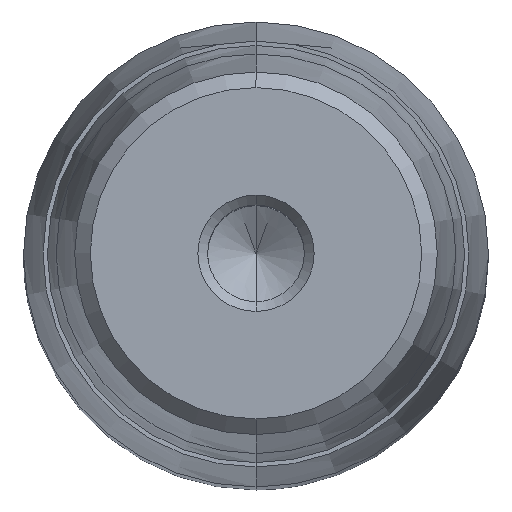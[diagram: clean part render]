
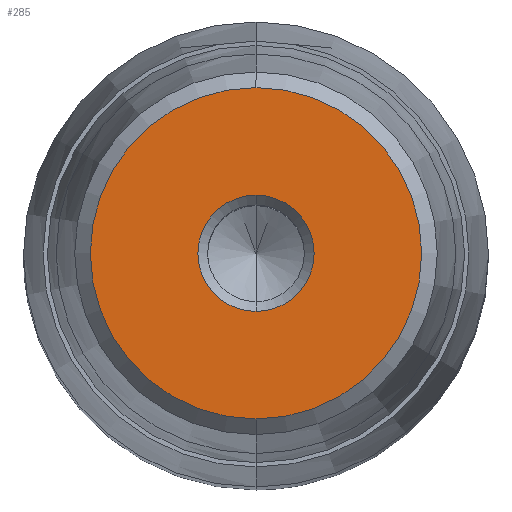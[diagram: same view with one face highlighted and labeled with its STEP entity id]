
A CAD part, top view. The second image highlights one B-rep face of the part: STEP entity #285.
In plain terms, the highlighted planar face has unit normal (0, 0, 1).
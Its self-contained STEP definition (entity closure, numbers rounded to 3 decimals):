
#164=CARTESIAN_POINT('Axis2P3D Location',(0.,0.,48.)) ;
#168=CARTESIAN_POINT('Vertex',(4.,0.,48.)) ;
#170=CARTESIAN_POINT('Vertex',(0.,-4.,48.)) ;
#173=CARTESIAN_POINT('Axis2P3D Location',(0.,0.,48.)) ;
#177=CARTESIAN_POINT('Vertex',(0.,4.,48.)) ;
#228=CARTESIAN_POINT('Axis2P3D Location',(0.,4.,48.)) ;
#233=CARTESIAN_POINT('Axis2P3D Location',(0.,0.,48.)) ;
#237=CARTESIAN_POINT('Vertex',(0.,11.4,48.)) ;
#239=CARTESIAN_POINT('Vertex',(11.4,0.,48.)) ;
#242=CARTESIAN_POINT('Axis2P3D Location',(0.,0.,48.)) ;
#246=CARTESIAN_POINT('Vertex',(-11.4,0.,48.)) ;
#249=CARTESIAN_POINT('Axis2P3D Location',(0.,0.,48.)) ;
#253=CARTESIAN_POINT('Vertex',(0.,-11.4,48.)) ;
#256=CARTESIAN_POINT('Axis2P3D Location',(0.,0.,48.)) ;
#267=CARTESIAN_POINT('Axis2P3D Location',(0.,0.,48.)) ;
#271=CARTESIAN_POINT('Vertex',(-4.,0.,48.)) ;
#274=CARTESIAN_POINT('Axis2P3D Location',(0.,0.,48.)) ;
#165=DIRECTION('Axis2P3D Direction',(0.,0.,1.)) ;
#174=DIRECTION('Axis2P3D Direction',(0.,0.,1.)) ;
#229=DIRECTION('Axis2P3D Direction',(-0.,0.,-1.)) ;
#230=DIRECTION('Axis2P3D XDirection',(0.,1.,0.)) ;
#234=DIRECTION('Axis2P3D Direction',(-0.,0.,-1.)) ;
#243=DIRECTION('Axis2P3D Direction',(-0.,0.,-1.)) ;
#250=DIRECTION('Axis2P3D Direction',(-0.,0.,-1.)) ;
#257=DIRECTION('Axis2P3D Direction',(-0.,0.,-1.)) ;
#268=DIRECTION('Axis2P3D Direction',(-0.,0.,-1.)) ;
#275=DIRECTION('Axis2P3D Direction',(-0.,0.,-1.)) ;
#166=AXIS2_PLACEMENT_3D('Circle Axis2P3D',#164,#165,$) ;
#175=AXIS2_PLACEMENT_3D('Circle Axis2P3D',#173,#174,$) ;
#231=AXIS2_PLACEMENT_3D('Plane Axis2P3D',#228,#229,#230) ;
#235=AXIS2_PLACEMENT_3D('Circle Axis2P3D',#233,#234,$) ;
#244=AXIS2_PLACEMENT_3D('Circle Axis2P3D',#242,#243,$) ;
#251=AXIS2_PLACEMENT_3D('Circle Axis2P3D',#249,#250,$) ;
#258=AXIS2_PLACEMENT_3D('Circle Axis2P3D',#256,#257,$) ;
#269=AXIS2_PLACEMENT_3D('Circle Axis2P3D',#267,#268,$) ;
#276=AXIS2_PLACEMENT_3D('Circle Axis2P3D',#274,#275,$) ;
#262=ORIENTED_EDGE('',*,*,#241,.F.) ;
#263=ORIENTED_EDGE('',*,*,#248,.F.) ;
#264=ORIENTED_EDGE('',*,*,#255,.F.) ;
#265=ORIENTED_EDGE('',*,*,#260,.F.) ;
#280=ORIENTED_EDGE('',*,*,#172,.T.) ;
#281=ORIENTED_EDGE('',*,*,#273,.T.) ;
#282=ORIENTED_EDGE('',*,*,#278,.T.) ;
#283=ORIENTED_EDGE('',*,*,#179,.T.) ;
#284=FACE_BOUND('',#279,.T.) ;
#285=ADVANCED_FACE('722-32x140x173',(#266,#284),#232,.F.) ;
#167=CIRCLE('generated circle',#166,4.) ;
#176=CIRCLE('generated circle',#175,4.) ;
#236=CIRCLE('generated circle',#235,11.4) ;
#245=CIRCLE('generated circle',#244,11.4) ;
#252=CIRCLE('generated circle',#251,11.4) ;
#259=CIRCLE('generated circle',#258,11.4) ;
#270=CIRCLE('generated circle',#269,4.) ;
#277=CIRCLE('generated circle',#276,4.) ;
#172=EDGE_CURVE('',#169,#171,#167,.F.) ;
#179=EDGE_CURVE('',#178,#169,#176,.F.) ;
#241=EDGE_CURVE('',#238,#240,#236,.T.) ;
#248=EDGE_CURVE('',#247,#238,#245,.T.) ;
#255=EDGE_CURVE('',#254,#247,#252,.T.) ;
#260=EDGE_CURVE('',#240,#254,#259,.T.) ;
#273=EDGE_CURVE('',#171,#272,#270,.T.) ;
#278=EDGE_CURVE('',#272,#178,#277,.T.) ;
#261=EDGE_LOOP('',(#262,#263,#264,#265)) ;
#279=EDGE_LOOP('',(#280,#281,#282,#283)) ;
#266=FACE_OUTER_BOUND('',#261,.T.) ;
#232=PLANE('Plane',#231) ;
#169=VERTEX_POINT('',#168) ;
#171=VERTEX_POINT('',#170) ;
#178=VERTEX_POINT('',#177) ;
#238=VERTEX_POINT('',#237) ;
#240=VERTEX_POINT('',#239) ;
#247=VERTEX_POINT('',#246) ;
#254=VERTEX_POINT('',#253) ;
#272=VERTEX_POINT('',#271) ;
